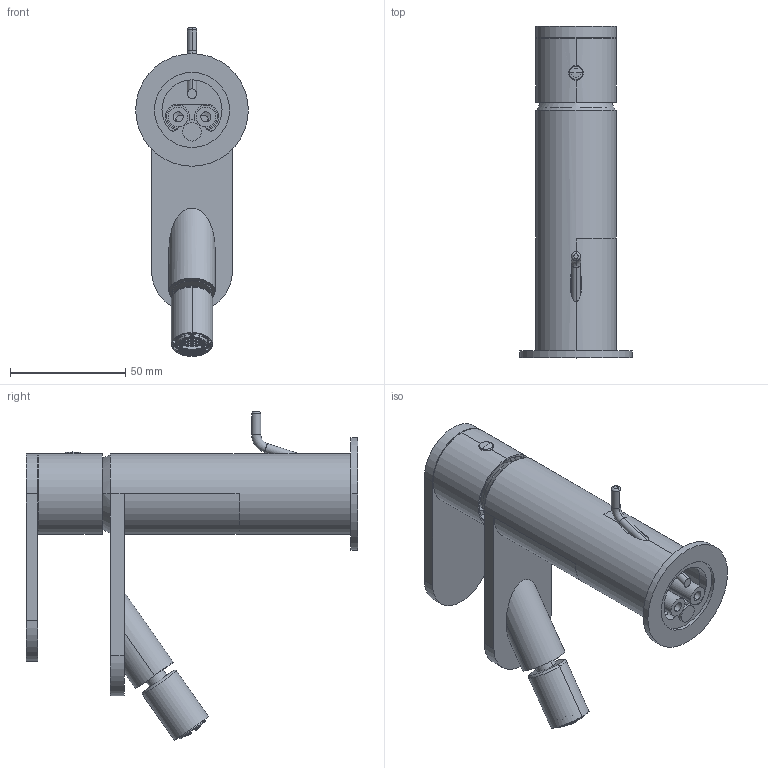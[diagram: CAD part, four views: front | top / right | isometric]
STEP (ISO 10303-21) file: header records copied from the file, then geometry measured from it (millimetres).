
FILE_DESCRIPTION((''),'2;1');
FILE_NAME('7910321_SW0001','2026-10-05T14:55:08',('carloff'),(''),'CREO PARAMETRIC BY PTC INC, 2025443','CREO PARAMETRIC BY PTC INC, 2025443','');
FILE_SCHEMA(('CONFIG_CONTROL_DESIGN'));
Length unit declared in the file: millimetre
Products named in the file (1): 7910321_SW0001
Bounding box: 48.8 x 143.74 x 142.41 mm (x, y, z)
Volume: 118742.4 mm3; surface area: 83327.6 mm2
Topology: 2 solids, 2 shells, 3671 faces, 10481 edges, 6813 vertices
Faces by surface type: plane 2060, cylinder 662, torus 524, bspline 210, cone 129, sphere 79, extrusion 7
Entity records: 156458 total; most frequent: CARTESIAN_POINT 66785, ORIENTED_EDGE 20800, DIRECTION 15876, EDGE_CURVE 10400, VERTEX_POINT 6812, AXIS2_PLACEMENT_3D 6002, EDGE_LOOP 4110, B_SPLINE_CURVE_WITH_KNOTS 3994
